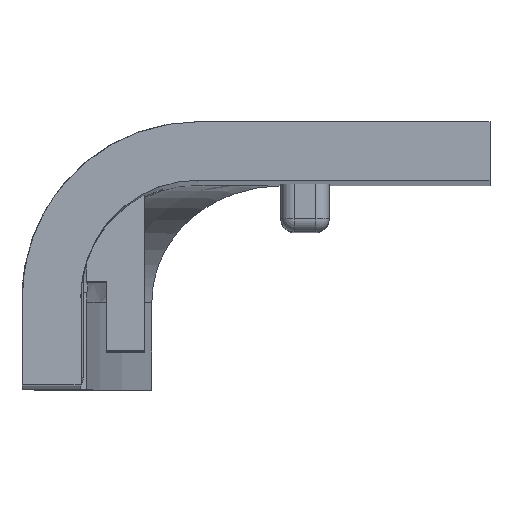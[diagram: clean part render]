
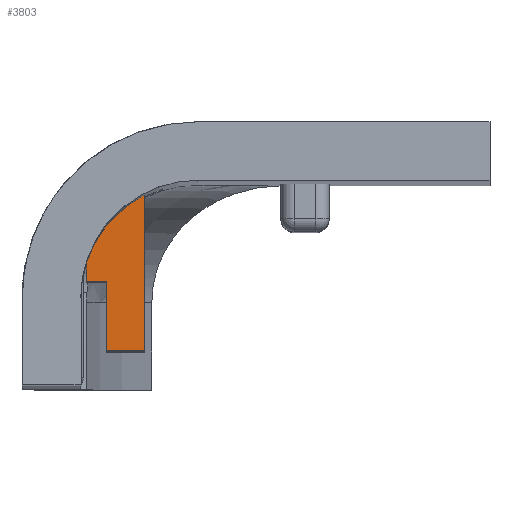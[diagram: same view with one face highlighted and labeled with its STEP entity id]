
A CAD part, top view. The second image highlights one B-rep face of the part: STEP entity #3803.
In plain terms, the highlighted planar face has unit normal (0, 0, 1).
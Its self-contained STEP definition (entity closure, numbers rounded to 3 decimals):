
#246 = CYLINDRICAL_SURFACE('',#247,4.);
#247 = AXIS2_PLACEMENT_3D('',#248,#249,#250);
#248 = CARTESIAN_POINT('',(-38.,7.2,47.));
#249 = DIRECTION('',(-0.,-0.,-1.));
#250 = DIRECTION('',(0.,1.,-0.));
#1400 = VERTEX_POINT('',#1401);
#1401 = CARTESIAN_POINT('',(-39.8,10.772,8.));
#1414 = PLANE('',#1415);
#1415 = AXIS2_PLACEMENT_3D('',#1416,#1417,#1418);
#1416 = CARTESIAN_POINT('',(-39.8,5.43,2.));
#1417 = DIRECTION('',(1.,0.,0.));
#1418 = DIRECTION('',(0.,0.,1.));
#1426 = EDGE_CURVE('',#1427,#1400,#1429,.T.);
#1427 = VERTEX_POINT('',#1428);
#1428 = CARTESIAN_POINT('',(-41.8,8.449,8.));
#1429 = SURFACE_CURVE('',#1430,(#1435,#1442),.PCURVE_S1.);
#1430 = CIRCLE('',#1431,4.);
#1431 = AXIS2_PLACEMENT_3D('',#1432,#1433,#1434);
#1432 = CARTESIAN_POINT('',(-38.,7.2,8.));
#1433 = DIRECTION('',(0.,0.,-1.));
#1434 = DIRECTION('',(0.,1.,0.));
#1435 = PCURVE('',#246,#1436);
#1436 = DEFINITIONAL_REPRESENTATION('',(#1437),#1441);
#1437 = LINE('',#1438,#1439);
#1438 = CARTESIAN_POINT('',(0.,39.));
#1439 = VECTOR('',#1440,1.);
#1440 = DIRECTION('',(1.,-0.));
#1441 = ( GEOMETRIC_REPRESENTATION_CONTEXT(2) 
PARAMETRIC_REPRESENTATION_CONTEXT() REPRESENTATION_CONTEXT('2D SPACE',''
  ) );
#1442 = PCURVE('',#1443,#1448);
#1443 = PLANE('',#1444);
#1444 = AXIS2_PLACEMENT_3D('',#1445,#1446,#1447);
#1445 = CARTESIAN_POINT('',(-41.8,5.43,8.));
#1446 = DIRECTION('',(0.,0.,1.));
#1447 = DIRECTION('',(1.,0.,-0.));
#1448 = DEFINITIONAL_REPRESENTATION('',(#1449),#1457);
#1449 = ( BOUNDED_CURVE() B_SPLINE_CURVE(2,(#1450,#1451,#1452,#1453,
#1454,#1455,#1456),.UNSPECIFIED.,.T.,.F.) B_SPLINE_CURVE_WITH_KNOTS((1,2
    ,2,2,2,1),(-2.094,0.,2.094,4.189,
6.283,8.378),.UNSPECIFIED.) CURVE() 
GEOMETRIC_REPRESENTATION_ITEM() RATIONAL_B_SPLINE_CURVE((1.,0.5,1.,0.5,
1.,0.5,1.)) REPRESENTATION_ITEM('') );
#1450 = CARTESIAN_POINT('',(3.8,5.77));
#1451 = CARTESIAN_POINT('',(10.728,5.77));
#1452 = CARTESIAN_POINT('',(7.264,-0.23));
#1453 = CARTESIAN_POINT('',(3.8,-6.23));
#1454 = CARTESIAN_POINT('',(0.336,-0.23));
#1455 = CARTESIAN_POINT('',(-3.128,5.77));
#1456 = CARTESIAN_POINT('',(3.8,5.77));
#1457 = ( GEOMETRIC_REPRESENTATION_CONTEXT(2) 
PARAMETRIC_REPRESENTATION_CONTEXT() REPRESENTATION_CONTEXT('2D SPACE',''
  ) );
#1472 = PLANE('',#1473);
#1473 = AXIS2_PLACEMENT_3D('',#1474,#1475,#1476);
#1474 = CARTESIAN_POINT('',(-41.8,5.43,2.));
#1475 = DIRECTION('',(1.,0.,0.));
#1476 = DIRECTION('',(0.,0.,1.));
#3616 = PLANE('',#3617);
#3617 = AXIS2_PLACEMENT_3D('',#3618,#3619,#3620);
#3618 = CARTESIAN_POINT('',(-47.,7.8,-28.5));
#3619 = DIRECTION('',(-0.,-1.,0.));
#3620 = DIRECTION('',(0.,0.,1.));
#3644 = PLANE('',#3645);
#3645 = AXIS2_PLACEMENT_3D('',#3646,#3647,#3648);
#3646 = CARTESIAN_POINT('',(-41.1,0.,0.));
#3647 = DIRECTION('',(-1.,0.,0.));
#3648 = DIRECTION('',(0.,0.,1.));
#3672 = PLANE('',#3673);
#3673 = AXIS2_PLACEMENT_3D('',#3674,#3675,#3676);
#3674 = CARTESIAN_POINT('',(-41.8,5.43,2.));
#3675 = DIRECTION('',(0.,1.,0.));
#3676 = DIRECTION('',(0.,-0.,1.));
#3709 = EDGE_CURVE('',#3710,#1427,#3712,.T.);
#3710 = VERTEX_POINT('',#3711);
#3711 = CARTESIAN_POINT('',(-41.8,7.8,8.));
#3712 = SURFACE_CURVE('',#3713,(#3717,#3724),.PCURVE_S1.);
#3713 = LINE('',#3714,#3715);
#3714 = CARTESIAN_POINT('',(-41.8,5.43,8.));
#3715 = VECTOR('',#3716,1.);
#3716 = DIRECTION('',(0.,1.,0.));
#3717 = PCURVE('',#1472,#3718);
#3718 = DEFINITIONAL_REPRESENTATION('',(#3719),#3723);
#3719 = LINE('',#3720,#3721);
#3720 = CARTESIAN_POINT('',(6.,0.));
#3721 = VECTOR('',#3722,1.);
#3722 = DIRECTION('',(0.,-1.));
#3723 = ( GEOMETRIC_REPRESENTATION_CONTEXT(2) 
PARAMETRIC_REPRESENTATION_CONTEXT() REPRESENTATION_CONTEXT('2D SPACE',''
  ) );
#3724 = PCURVE('',#1443,#3725);
#3725 = DEFINITIONAL_REPRESENTATION('',(#3726),#3730);
#3726 = LINE('',#3727,#3728);
#3727 = CARTESIAN_POINT('',(0.,0.));
#3728 = VECTOR('',#3729,1.);
#3729 = DIRECTION('',(0.,1.));
#3730 = ( GEOMETRIC_REPRESENTATION_CONTEXT(2) 
PARAMETRIC_REPRESENTATION_CONTEXT() REPRESENTATION_CONTEXT('2D SPACE',''
  ) );
#3758 = EDGE_CURVE('',#3759,#1400,#3761,.T.);
#3759 = VERTEX_POINT('',#3760);
#3760 = CARTESIAN_POINT('',(-39.8,5.43,8.));
#3761 = SURFACE_CURVE('',#3762,(#3766,#3773),.PCURVE_S1.);
#3762 = LINE('',#3763,#3764);
#3763 = CARTESIAN_POINT('',(-39.8,5.43,8.));
#3764 = VECTOR('',#3765,1.);
#3765 = DIRECTION('',(0.,1.,0.));
#3766 = PCURVE('',#1414,#3767);
#3767 = DEFINITIONAL_REPRESENTATION('',(#3768),#3772);
#3768 = LINE('',#3769,#3770);
#3769 = CARTESIAN_POINT('',(6.,0.));
#3770 = VECTOR('',#3771,1.);
#3771 = DIRECTION('',(0.,-1.));
#3772 = ( GEOMETRIC_REPRESENTATION_CONTEXT(2) 
PARAMETRIC_REPRESENTATION_CONTEXT() REPRESENTATION_CONTEXT('2D SPACE',''
  ) );
#3773 = PCURVE('',#1443,#3774);
#3774 = DEFINITIONAL_REPRESENTATION('',(#3775),#3779);
#3775 = LINE('',#3776,#3777);
#3776 = CARTESIAN_POINT('',(2.,0.));
#3777 = VECTOR('',#3778,1.);
#3778 = DIRECTION('',(0.,1.));
#3779 = ( GEOMETRIC_REPRESENTATION_CONTEXT(2) 
PARAMETRIC_REPRESENTATION_CONTEXT() REPRESENTATION_CONTEXT('2D SPACE',''
  ) );
#3803 = ADVANCED_FACE('',(#3804),#1443,.T.);
#3804 = FACE_BOUND('',#3805,.T.);
#3805 = EDGE_LOOP('',(#3806,#3807,#3830,#3853,#3874,#3875));
#3806 = ORIENTED_EDGE('',*,*,#3709,.F.);
#3807 = ORIENTED_EDGE('',*,*,#3808,.T.);
#3808 = EDGE_CURVE('',#3710,#3809,#3811,.T.);
#3809 = VERTEX_POINT('',#3810);
#3810 = CARTESIAN_POINT('',(-41.1,7.8,8.));
#3811 = SURFACE_CURVE('',#3812,(#3816,#3823),.PCURVE_S1.);
#3812 = LINE('',#3813,#3814);
#3813 = CARTESIAN_POINT('',(-44.4,7.8,8.));
#3814 = VECTOR('',#3815,1.);
#3815 = DIRECTION('',(1.,0.,0.));
#3816 = PCURVE('',#1443,#3817);
#3817 = DEFINITIONAL_REPRESENTATION('',(#3818),#3822);
#3818 = LINE('',#3819,#3820);
#3819 = CARTESIAN_POINT('',(-2.6,2.37));
#3820 = VECTOR('',#3821,1.);
#3821 = DIRECTION('',(1.,0.));
#3822 = ( GEOMETRIC_REPRESENTATION_CONTEXT(2) 
PARAMETRIC_REPRESENTATION_CONTEXT() REPRESENTATION_CONTEXT('2D SPACE',''
  ) );
#3823 = PCURVE('',#3616,#3824);
#3824 = DEFINITIONAL_REPRESENTATION('',(#3825),#3829);
#3825 = LINE('',#3826,#3827);
#3826 = CARTESIAN_POINT('',(36.5,-2.6));
#3827 = VECTOR('',#3828,1.);
#3828 = DIRECTION('',(0.,-1.));
#3829 = ( GEOMETRIC_REPRESENTATION_CONTEXT(2) 
PARAMETRIC_REPRESENTATION_CONTEXT() REPRESENTATION_CONTEXT('2D SPACE',''
  ) );
#3830 = ORIENTED_EDGE('',*,*,#3831,.T.);
#3831 = EDGE_CURVE('',#3809,#3832,#3834,.T.);
#3832 = VERTEX_POINT('',#3833);
#3833 = CARTESIAN_POINT('',(-41.1,5.43,8.));
#3834 = SURFACE_CURVE('',#3835,(#3839,#3846),.PCURVE_S1.);
#3835 = LINE('',#3836,#3837);
#3836 = CARTESIAN_POINT('',(-41.1,2.715,8.));
#3837 = VECTOR('',#3838,1.);
#3838 = DIRECTION('',(0.,-1.,0.));
#3839 = PCURVE('',#1443,#3840);
#3840 = DEFINITIONAL_REPRESENTATION('',(#3841),#3845);
#3841 = LINE('',#3842,#3843);
#3842 = CARTESIAN_POINT('',(0.7,-2.715));
#3843 = VECTOR('',#3844,1.);
#3844 = DIRECTION('',(0.,-1.));
#3845 = ( GEOMETRIC_REPRESENTATION_CONTEXT(2) 
PARAMETRIC_REPRESENTATION_CONTEXT() REPRESENTATION_CONTEXT('2D SPACE',''
  ) );
#3846 = PCURVE('',#3644,#3847);
#3847 = DEFINITIONAL_REPRESENTATION('',(#3848),#3852);
#3848 = LINE('',#3849,#3850);
#3849 = CARTESIAN_POINT('',(8.,2.715));
#3850 = VECTOR('',#3851,1.);
#3851 = DIRECTION('',(0.,-1.));
#3852 = ( GEOMETRIC_REPRESENTATION_CONTEXT(2) 
PARAMETRIC_REPRESENTATION_CONTEXT() REPRESENTATION_CONTEXT('2D SPACE',''
  ) );
#3853 = ORIENTED_EDGE('',*,*,#3854,.T.);
#3854 = EDGE_CURVE('',#3832,#3759,#3855,.T.);
#3855 = SURFACE_CURVE('',#3856,(#3860,#3867),.PCURVE_S1.);
#3856 = LINE('',#3857,#3858);
#3857 = CARTESIAN_POINT('',(-41.8,5.43,8.));
#3858 = VECTOR('',#3859,1.);
#3859 = DIRECTION('',(1.,0.,0.));
#3860 = PCURVE('',#1443,#3861);
#3861 = DEFINITIONAL_REPRESENTATION('',(#3862),#3866);
#3862 = LINE('',#3863,#3864);
#3863 = CARTESIAN_POINT('',(0.,0.));
#3864 = VECTOR('',#3865,1.);
#3865 = DIRECTION('',(1.,0.));
#3866 = ( GEOMETRIC_REPRESENTATION_CONTEXT(2) 
PARAMETRIC_REPRESENTATION_CONTEXT() REPRESENTATION_CONTEXT('2D SPACE',''
  ) );
#3867 = PCURVE('',#3672,#3868);
#3868 = DEFINITIONAL_REPRESENTATION('',(#3869),#3873);
#3869 = LINE('',#3870,#3871);
#3870 = CARTESIAN_POINT('',(6.,0.));
#3871 = VECTOR('',#3872,1.);
#3872 = DIRECTION('',(0.,1.));
#3873 = ( GEOMETRIC_REPRESENTATION_CONTEXT(2) 
PARAMETRIC_REPRESENTATION_CONTEXT() REPRESENTATION_CONTEXT('2D SPACE',''
  ) );
#3874 = ORIENTED_EDGE('',*,*,#3758,.T.);
#3875 = ORIENTED_EDGE('',*,*,#1426,.F.);
